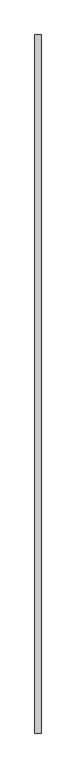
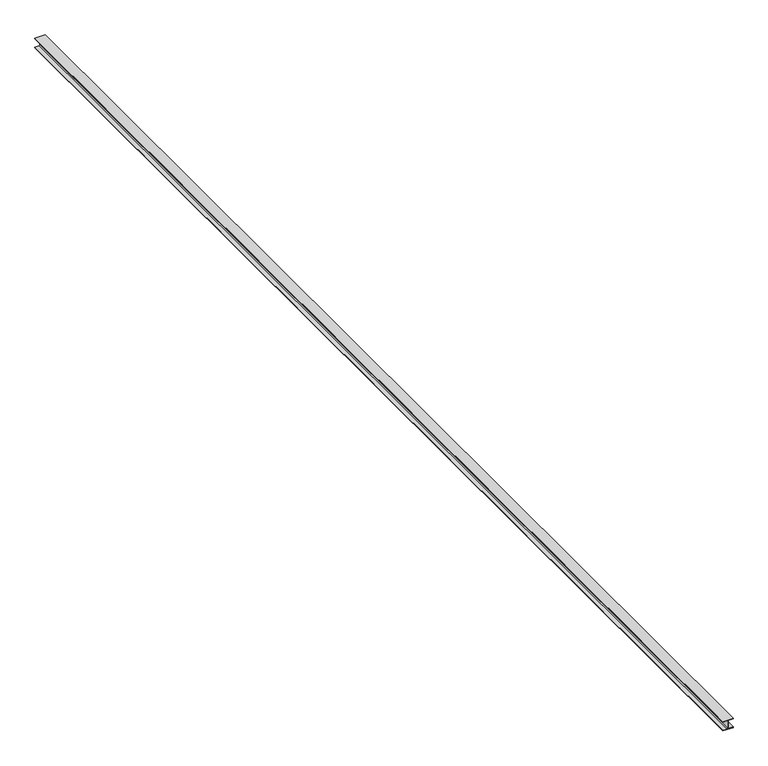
"""IFC4 building model written with IfcOpenShell, lengths in millimetres: beam geometry, Membrure basse 60066 : Membrure basse 60066."""

from ifc_helpers import new_model, si_unit, frame, origin, place, context, project, spatial, polyline, outline, extrude, source, transform, mapped, element, save


def beam_5b75f4e0(model_context):
    return source(origin(), model_context, "Body", "SweptSolid", [
        extrude(outline(polyline([(5200.0, -180.0000001), (5200.0, -40.0000001), (5208.5, -40.0000001), (5208.5, -95.2500001), (5220.5, -107.2500001), (5312.5, -107.2500001), (5324.5, -95.2500001), (5324.5, -40.0000001), (5333.0, -40.0000001), (5333.0, -180.0000001), (5324.5, -180.0000001), (5324.5, -124.7500001), (5312.5, -112.7500001), (5220.5, -112.7500001), (5208.5, -124.7500001), (5208.5, -180.0000001), (5200.0, -180.0000001)])), frame((0.0, -28915.0, 0.0), z_axis=(0.0, 1.0, 0.0), x_axis=(0.0, 0.0, 1.0)), (0.0, 0.0, 1.0), 16030.0),
    ])


if __name__ == "__main__":
    model = new_model("IFC4")
    model_context = context("Model", 3, world=origin())
    ifc_project = project(units=[si_unit("LENGTHUNIT", "METRE", prefix="MILLI")], contexts=[model_context])
    site = spatial("IfcSite", under=ifc_project)
    building = spatial("IfcBuilding", under=site)
    placement = place(None, origin())
    beam_shape = beam_5b75f4e0(model_context)
    element("IfcBeam", 1, ObjectType="Membrure basse 60066 : Membrure basse 60066", at=placement, inside=building, context=model_context, shape_type="MappedRepresentation", body=[
        mapped(beam_shape, transform((0.0, 0.0, 0.0), x_axis=(1.0, 0.0, 0.0), y_axis=(0.0, 1.0, 0.0), z_axis=(0.0, 0.0, 1.0))),
    ])
    save(model, "model.ifc")
